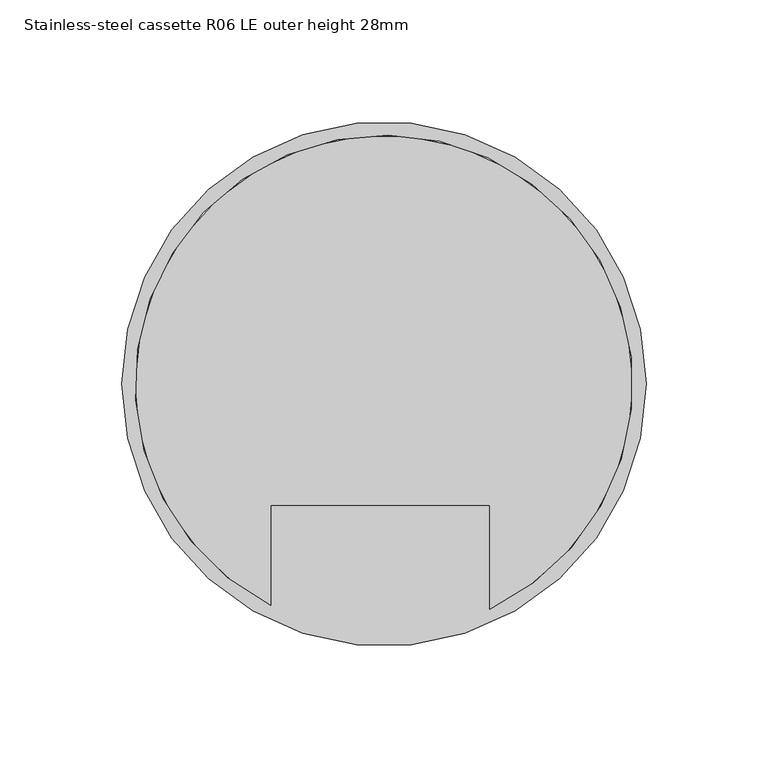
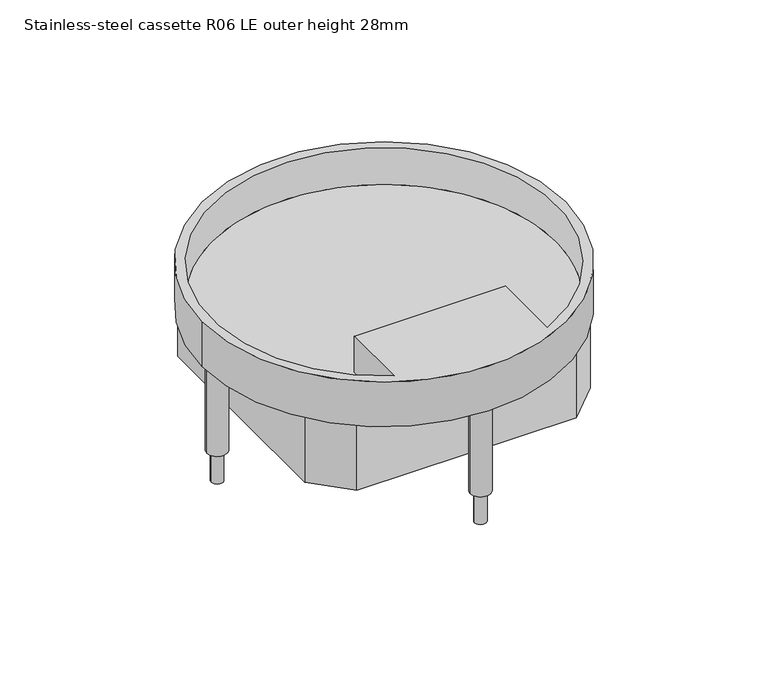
"""IFC4 building model written with IfcOpenShell, lengths in millimetres: proxy geometry, Electrical_Installation_Hager_VE-EE_EKR-Height-adjustable-stainless-steel-cassette-with-square-cable-outlet-for-dry-cleaned-floors : Stainless-steel cassette R06 LE outer height 28mm."""

from ifc_helpers import new_model, si_unit, point, frame, frame_2d, origin, place, context, project, spatial, polyline, circle_curve, trimmed, segment, composite_curve, outline, extrude, source, transform, mapped, element, save
from ifc_brep_helpers import plane_surface, cylinder_surface, revolved_surface, advanced_brep


def stainless_steel_cassette_r06_le_outer_height_28mm_c526c0f7(model_context):
    return source(origin(), model_context, "Body", "SolidModel", [
        extrude(outline(composite_curve([segment(trimmed(circle_curve(frame_2d((-98.8, 0.0)), 3.5), [point((-102.3, 0.0))], [point((-95.3, 0.0))], False, "CARTESIAN"), True, "CONTINUOUS"), segment(trimmed(circle_curve(frame_2d((-98.8, 0.0)), 3.5), [point((-95.3, 0.0))], [point((-102.3, 0.0))], False, "CARTESIAN"), True, "CONTINUOUS")], self_intersect=False)), frame((0.0, 0.0, -100.0), z_axis=(0.0, 0.0, 1.0), x_axis=(1.0, 0.0, 0.0)), (0.0, 0.0, 1.0), 74.011943),
        extrude(outline(composite_curve([segment(trimmed(circle_curve(frame_2d((0.0, 98.8)), 3.5), [point((-3.5, 98.8))], [point((3.5, 98.8))], False, "CARTESIAN"), True, "CONTINUOUS"), segment(trimmed(circle_curve(frame_2d((0.0, 98.8)), 3.5), [point((3.5, 98.8))], [point((-3.5, 98.8))], False, "CARTESIAN"), True, "CONTINUOUS")], self_intersect=False)), frame((0.0, 0.0, -100.0), z_axis=(0.0, 0.0, 1.0), x_axis=(1.0, 0.0, 0.0)), (0.0, 0.0, 1.0), 74.011943),
        extrude(outline(composite_curve([segment(trimmed(circle_curve(frame_2d((98.8, 0.0)), 3.548869), [point((95.251131, 0.0))], [point((102.348869, 0.0))], False, "CARTESIAN"), True, "CONTINUOUS"), segment(trimmed(circle_curve(frame_2d((98.8, 0.0)), 3.548869), [point((102.348869, 0.0))], [point((95.251131, 0.0))], False, "CARTESIAN"), True, "CONTINUOUS")], self_intersect=False)), frame((0.0, 0.0, -100.0), z_axis=(0.0, 0.0, 1.0), x_axis=(1.0, 0.0, 0.0)), (0.0, 0.0, 1.0), 74.011943),
        extrude(outline(composite_curve([segment(trimmed(circle_curve(frame_2d((0.0, -98.8)), 3.5), [point((-3.5, -98.8))], [point((3.5, -98.8))], False, "CARTESIAN"), True, "CONTINUOUS"), segment(trimmed(circle_curve(frame_2d((0.0, -98.8)), 3.5), [point((3.5, -98.8))], [point((-3.5, -98.8))], False, "CARTESIAN"), True, "CONTINUOUS")], self_intersect=False)), frame((0.0, 0.0, -100.0), z_axis=(0.0, 0.0, 1.0), x_axis=(1.0, 0.0, 0.0)), (0.0, 0.0, 1.0), 74.011943),
        advanced_brep(
        [(-102.0, 0.0, -20.988057), (-46.3841599, -90.8433251, -20.988057), (-46.3841599, -49.7709238, -20.988057), (43.2879642, -49.7709238, -20.988057), (43.2879642, -92.3588228, -20.988057), (102.0, 0.0, -20.988057), (-107.5, 0.0, -25.988057), (107.5, 0.0, -25.988057), (-107.5, 0.0, 2.011943), (107.5, 0.0, 2.011943), (-46.3841599, -90.8433251, 2.011943), (43.2879642, -92.3588228, 2.011943), (43.2879642, -49.7709238, 2.011943), (-46.3841599, -49.7709238, 2.011943)],
        [
            (0, 1, circle_curve(frame((0.0, 0.0, -20.988057), z_axis=(0.0, 0.0, 1.0), x_axis=(1.0, 0.0, 0.0)), 102.0)),
            (1, 2),
            (2, 3),
            (3, 4),
            (4, 5, circle_curve(frame((0.0, 0.0, -20.988057), z_axis=(0.0, 0.0, 1.0), x_axis=(1.0, 0.0, 0.0)), 102.0)),
            (5, 0, circle_curve(frame((0.0, 0.0, -20.988057), z_axis=(0.0, 0.0, 1.0), x_axis=(1.0, 0.0, 0.0)), 102.0)),
            (6, 7, circle_curve(frame((0.0, 0.0, -25.988057), z_axis=(0.0, 0.0, -1.0), x_axis=(1.0, 0.0, 0.0)), 107.5)),
            (7, 6, circle_curve(frame((0.0, 0.0, -25.988057), z_axis=(0.0, 0.0, -1.0), x_axis=(1.0, 0.0, 0.0)), 107.5)),
            (8, 9, circle_curve(frame((0.0, 0.0, 2.011943), z_axis=(0.0, 0.0, 1.0), x_axis=(1.0, 0.0, 0.0)), 107.5)),
            (9, 8, circle_curve(frame((0.0, 0.0, 2.011943), z_axis=(0.0, 0.0, 1.0), x_axis=(1.0, 0.0, 0.0)), 107.5)),
            (10, 11, circle_curve(frame((0.0, 0.0, 2.011943), z_axis=(0.0, 0.0, -1.0), x_axis=(1.0, 0.0, 0.0)), 102.0)),
            (11, 12),
            (12, 13),
            (13, 10),
            (8, 6),
            (7, 9),
            (10, 1),
            (4, 11),
            (3, 12),
            (2, 13),
        ],
        [
            plane_surface(frame((102.0, 0.0, -20.988057), z_axis=(0.0, 0.0, 1.0), x_axis=(0.0, 1.0, 0.0))),
            plane_surface(frame((102.0, 0.0, -25.988057), z_axis=(0.0, 0.0, -1.0), x_axis=(0.0, -1.0, 0.0))),
            plane_surface(frame((107.5, 0.0, 2.011943), z_axis=(0.0, 0.0, 1.0), x_axis=(0.0, 1.0, 0.0))),
            cylinder_surface(frame((0.0, 0.0, -25.988057), z_axis=(0.0, 0.0, 1.0), x_axis=(1.0, 0.0, 0.0)), 107.5),
            revolved_surface(polyline([(102.0, 0.0, -20.988057), (102.0, 0.0, 2.011943)]), (0.0, 0.0, 0.0), (0.0, 0.0, -1.0)),
            plane_surface(frame((43.2879642, -92.3588228, 2.011943), z_axis=(1.0, 0.0, 0.0), x_axis=(0.0, 0.0, -1.0))),
            plane_surface(frame((43.2879642, -49.7709238, 2.011943), z_axis=(0.0, 1.0, 0.0), x_axis=(0.0, 0.0, -1.0))),
            plane_surface(frame((-46.3841599, -49.7709238, 2.011943), z_axis=(-1.0, 0.0, 0.0), x_axis=(0.0, 0.0, -1.0))),
        ],
        [
            (0, [[1, 2, 3, 4, 5, 6]]),
            (1, [[7, 8]]),
            (2, [[9, 10], [11, 12, 13, 14]]),
            (3, [[-9, 15, -8, 16]]),
            (3, [[-10, -16, -7, -15]]),
            (4, [[-11, 17, -1, -6, -5, 18]]),
            (5, [[-12, -18, -4, 19]]),
            (6, [[-13, -19, -3, 20]]),
            (7, [[-14, -20, -2, -17]]),
        ],
    ),
        extrude(outline(polyline([(64.9818914, 84.5), (84.5, 64.9818914), (84.5, -64.9818914), (64.9818914, -84.5), (-64.9818914, -84.5), (-84.5, -64.9818914), (-84.5, 64.9818914), (-64.9818914, 84.5), (64.9818914, 84.5)]), holes=[polyline([(-81.5, 63.8602374), (-81.5, -63.8602374), (-63.8602374, -81.5), (63.8602374, -81.5), (81.5, -63.8602374), (81.5, 63.8602374), (63.8602374, 81.5), (-63.8602374, 81.5), (-81.5, 63.8602374)])]), frame((0.0, 0.0, -66.9297651), z_axis=(0.0, 0.0, 1.0), x_axis=(1.0, 0.0, 0.0)), (0.0, 0.0, 1.0), 40.9417081),
        extrude(outline(composite_curve([segment(trimmed(circle_curve(frame_2d((0.0, 98.8)), 5.9738904), [point((-5.9738904, 98.8))], [point((5.9738904, 98.8))], False, "CARTESIAN"), True, "CONTINUOUS"), segment(trimmed(circle_curve(frame_2d((0.0, 98.8)), 5.9738904), [point((5.9738904, 98.8))], [point((-5.9738904, 98.8))], False, "CARTESIAN"), True, "CONTINUOUS")], self_intersect=False)), frame((0.0, 0.0, -81.0371838), z_axis=(0.0, 0.0, 1.0), x_axis=(1.0, 0.0, 0.0)), (0.0, 0.0, 1.0), 55.0491267),
        extrude(outline(composite_curve([segment(trimmed(circle_curve(frame_2d((98.8, 0.0)), 6.0), [point((92.8, 0.0))], [point((104.8, 0.0))], False, "CARTESIAN"), True, "CONTINUOUS"), segment(trimmed(circle_curve(frame_2d((98.8, 0.0)), 6.0), [point((104.8, 0.0))], [point((92.8, 0.0))], False, "CARTESIAN"), True, "CONTINUOUS")], self_intersect=False)), frame((0.0, 0.0, -81.0371838), z_axis=(0.0, 0.0, 1.0), x_axis=(1.0, 0.0, 0.0)), (0.0, 0.0, 1.0), 55.0491267),
        extrude(outline(composite_curve([segment(trimmed(circle_curve(frame_2d((0.0, -98.8)), 6.0), [point((-6.0, -98.8))], [point((6.0, -98.8))], False, "CARTESIAN"), True, "CONTINUOUS"), segment(trimmed(circle_curve(frame_2d((0.0, -98.8)), 6.0), [point((6.0, -98.8))], [point((-6.0, -98.8))], False, "CARTESIAN"), True, "CONTINUOUS")], self_intersect=False)), frame((0.0, 0.0, -81.0371838), z_axis=(0.0, 0.0, 1.0), x_axis=(1.0, 0.0, 0.0)), (0.0, 0.0, 1.0), 55.0491267),
        extrude(outline(composite_curve([segment(trimmed(circle_curve(frame_2d((-98.8, 0.0)), 6.0), [point((-104.8, 0.0))], [point((-92.8, 0.0))], False, "CARTESIAN"), True, "CONTINUOUS"), segment(trimmed(circle_curve(frame_2d((-98.8, 0.0)), 6.0), [point((-92.8, 0.0))], [point((-104.8, 0.0))], False, "CARTESIAN"), True, "CONTINUOUS")], self_intersect=False)), frame((0.0, 0.0, -81.0371838), z_axis=(0.0, 0.0, 1.0), x_axis=(1.0, 0.0, 0.0)), (0.0, 0.0, 1.0), 55.0491267),
    ])


if __name__ == "__main__":
    model = new_model("IFC4")
    model_context = context("Model", 3, world=origin())
    ifc_project = project(units=[si_unit("LENGTHUNIT", "METRE", prefix="MILLI")], contexts=[model_context])
    site = spatial("IfcSite", under=ifc_project)
    building = spatial("IfcBuilding", under=site)
    placement = place(None, origin())
    stainless_steel_cassette_r06_le_outer_height_28mm_shape = stainless_steel_cassette_r06_le_outer_height_28mm_c526c0f7(model_context)
    element("IfcBuildingElementProxy", 1, Name="Electrical_Installation_Hager_VE-EE_EKR-Height-adjustable-stainless-steel-cassette-with-square-cable-outlet-for-dry-cleaned-floors : Stainless-steel cassette R06 LE outer height 28mm", ObjectType="Electrical_Installation_Hager_VE-EE_EKR-Height-adjustable-stainless-steel-cassette-with-square-cable-outlet-for-dry-cleaned-floors : Stainless-steel cassette R06 LE outer height 28mm", at=placement, inside=building, context=model_context, shape_type="MappedRepresentation", body=[
        mapped(stainless_steel_cassette_r06_le_outer_height_28mm_shape, transform((0.0, 0.0, 0.0), x_axis=(1.0, 0.0, 0.0), y_axis=(0.0, 1.0, 0.0), z_axis=(0.0, 0.0, 1.0))),
    ])
    save(model, "model.ifc")
